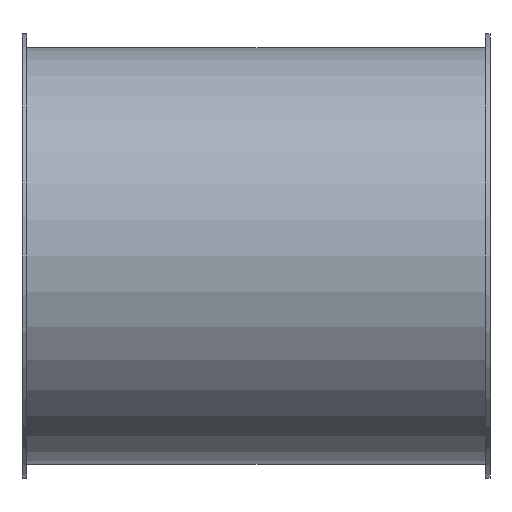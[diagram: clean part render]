
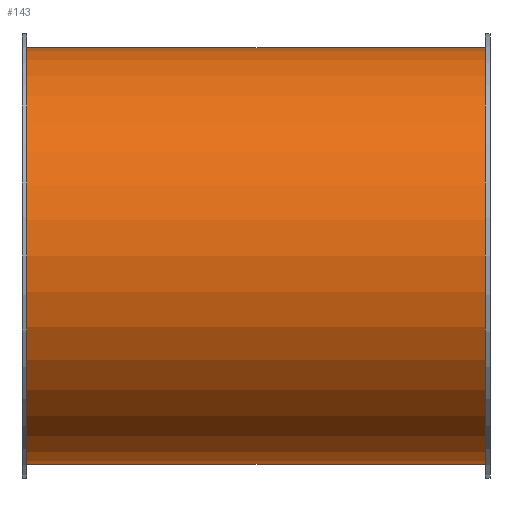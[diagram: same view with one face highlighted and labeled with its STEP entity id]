
A CAD part, front view. The second image highlights one B-rep face of the part: STEP entity #143.
In plain terms, the highlighted cylindrical face has radius 89 mm (diameter 178 mm), a full revolution.
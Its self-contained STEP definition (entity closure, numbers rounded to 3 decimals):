
#112=CARTESIAN_POINT('',(166.119,2.817,0.0));
#113=VERTEX_POINT('',#112);
#114=CARTESIAN_POINT('',(166.119,91.817,0.0));
#115=DIRECTION('',(-1.0,0.0,0.0));
#116=DIRECTION('',(0.0,-1.0,0.0));
#117=AXIS2_PLACEMENT_3D('',#114,#115,#116);
#118=CIRCLE('',#117,89.);
#119=EDGE_CURVE('',#113,#113,#118,.T.);
#124=CARTESIAN_POINT('',(68.119,91.817,0.0));
#125=DIRECTION('',(-1.0,0.,0.0));
#126=DIRECTION('',(0.0,-1.0,0.0));
#127=AXIS2_PLACEMENT_3D('',#124,#125,#126);
#128=CYLINDRICAL_SURFACE('',#127,89.0);
#129=CARTESIAN_POINT('',(-29.881,2.817,0.0));
#130=VERTEX_POINT('',#129);
#131=CARTESIAN_POINT('',(-29.881,91.817,0.0));
#132=DIRECTION('',(-1.0,0.0,0.0));
#133=DIRECTION('',(0.0,-1.0,0.0));
#134=AXIS2_PLACEMENT_3D('',#131,#132,#133);
#135=CIRCLE('',#134,89.);
#136=EDGE_CURVE('',#130,#130,#135,.T.);
#137=ORIENTED_EDGE('',*,*,#136,.F.);
#138=EDGE_LOOP('',(#137));
#139=FACE_OUTER_BOUND('',#138,.T.);
#140=ORIENTED_EDGE('',*,*,#119,.T.);
#141=EDGE_LOOP('',(#140));
#142=FACE_BOUND('',#141,.T.);
#143=ADVANCED_FACE('',(#139,#142),#128,.T.);
